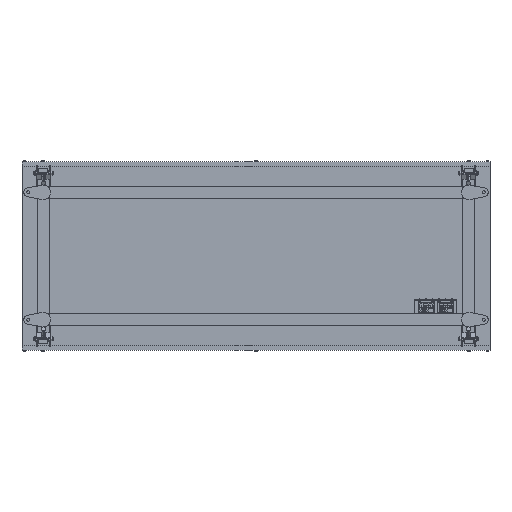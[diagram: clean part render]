
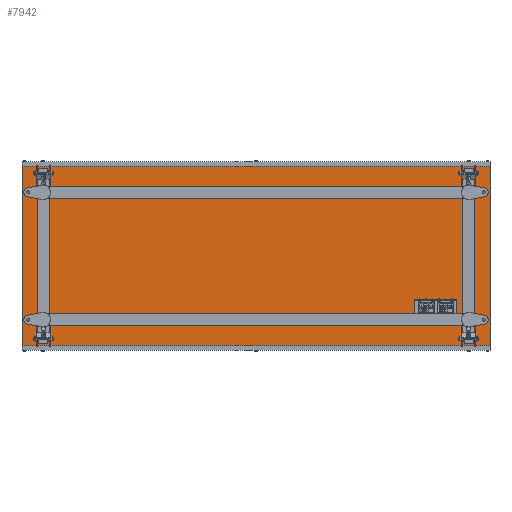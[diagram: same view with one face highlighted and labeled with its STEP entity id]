
A CAD part, front view. The second image highlights one B-rep face of the part: STEP entity #7942.
In plain terms, the highlighted planar face has unit normal (0, -1, 0).
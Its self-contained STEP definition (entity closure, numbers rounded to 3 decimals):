
#7942=ADVANCED_FACE('',(#47307,#47308,#47309,#47310,#47311),#47306,.F.);
#47306=PLANE('',#70549);
#47307=FACE_OUTER_BOUND('',#70550,.T.);
#47308=FACE_BOUND('',#70551,.T.);
#47309=FACE_BOUND('',#70552,.T.);
#47310=FACE_BOUND('',#70553,.T.);
#47311=FACE_BOUND('',#70554,.T.);
#70546=CARTESIAN_POINT('',(-10.,-180.,-390.));
#70547=DIRECTION('',(0.,1.,0.));
#70548=DIRECTION('',(0.,0.,1.));
#70549=AXIS2_PLACEMENT_3D('',#70546,#70547,#70548);
#70550=EDGE_LOOP('',(#90668,#90669,#90670,#90671));
#70551=EDGE_LOOP('',(#90672,#90673,#90674,#90675));
#70552=EDGE_LOOP('',(#90676,#90677,#90678,#90679));
#70553=EDGE_LOOP('',(#90680,#90681,#90682,#90683));
#70554=EDGE_LOOP('',(#90684,#90685,#90686,#90687));
#90668=ORIENTED_EDGE('',*,*,#101261,.T.);
#90669=ORIENTED_EDGE('',*,*,#101359,.F.);
#90670=ORIENTED_EDGE('',*,*,#101245,.F.);
#90671=ORIENTED_EDGE('',*,*,#101360,.T.);
#90672=ORIENTED_EDGE('',*,*,#101238,.F.);
#90673=ORIENTED_EDGE('',*,*,#101229,.F.);
#90674=ORIENTED_EDGE('',*,*,#101232,.F.);
#90675=ORIENTED_EDGE('',*,*,#101235,.F.);
#90676=ORIENTED_EDGE('',*,*,#100648,.T.);
#90677=ORIENTED_EDGE('',*,*,#100649,.T.);
#90678=ORIENTED_EDGE('',*,*,#100640,.T.);
#90679=ORIENTED_EDGE('',*,*,#100644,.T.);
#90680=ORIENTED_EDGE('',*,*,#101040,.T.);
#90681=ORIENTED_EDGE('',*,*,#101041,.T.);
#90682=ORIENTED_EDGE('',*,*,#101032,.T.);
#90683=ORIENTED_EDGE('',*,*,#101036,.T.);
#90684=ORIENTED_EDGE('',*,*,#100846,.F.);
#90685=ORIENTED_EDGE('',*,*,#100837,.F.);
#90686=ORIENTED_EDGE('',*,*,#100840,.F.);
#90687=ORIENTED_EDGE('',*,*,#100843,.F.);
#100640=EDGE_CURVE('',#161592,#161593,#161594,.T.);
#100644=EDGE_CURVE('',#161593,#161612,#161619,.T.);
#100648=EDGE_CURVE('',#161612,#161639,#161646,.T.);
#100649=EDGE_CURVE('',#161639,#161592,#161652,.T.);
#100837=EDGE_CURVE('',#162923,#162909,#162930,.T.);
#100840=EDGE_CURVE('',#162942,#162923,#162949,.T.);
#100843=EDGE_CURVE('',#162969,#162942,#162970,.T.);
#100846=EDGE_CURVE('',#162909,#162969,#162988,.T.);
#101032=EDGE_CURVE('',#164250,#164251,#164252,.T.);
#101036=EDGE_CURVE('',#164251,#164270,#164277,.T.);
#101040=EDGE_CURVE('',#164270,#164297,#164304,.T.);
#101041=EDGE_CURVE('',#164297,#164250,#164310,.T.);
#101229=EDGE_CURVE('',#165581,#165567,#165588,.T.);
#101232=EDGE_CURVE('',#165600,#165581,#165607,.T.);
#101235=EDGE_CURVE('',#165627,#165600,#165628,.T.);
#101238=EDGE_CURVE('',#165567,#165627,#165646,.T.);
#101245=EDGE_CURVE('',#165688,#165695,#165696,.T.);
#101261=EDGE_CURVE('',#165803,#165796,#165804,.T.);
#101359=EDGE_CURVE('',#165695,#165796,#166400,.T.);
#101360=EDGE_CURVE('',#165688,#165803,#166406,.T.);
#161592=VERTEX_POINT('',#202780);
#161593=VERTEX_POINT('',#202781);
#161594=LINE('',#202782,#202783);
#161612=VERTEX_POINT('',#202791);
#161619=LINE('',#202795,#202796);
#161639=VERTEX_POINT('',#202808);
#161646=LINE('',#202812,#202813);
#161652=LINE('',#202815,#202816);
#162909=VERTEX_POINT('',#203559);
#162923=VERTEX_POINT('',#203567);
#162930=LINE('',#203571,#203572);
#162942=VERTEX_POINT('',#203577);
#162949=LINE('',#203581,#203582);
#162969=VERTEX_POINT('',#203594);
#162970=LINE('',#203595,#203596);
#162988=LINE('',#203604,#203605);
#164250=VERTEX_POINT('',#204352);
#164251=VERTEX_POINT('',#204353);
#164252=LINE('',#204354,#204355);
#164270=VERTEX_POINT('',#204363);
#164277=LINE('',#204367,#204368);
#164297=VERTEX_POINT('',#204380);
#164304=LINE('',#204384,#204385);
#164310=LINE('',#204387,#204388);
#165567=VERTEX_POINT('',#205131);
#165581=VERTEX_POINT('',#205139);
#165588=LINE('',#205143,#205144);
#165600=VERTEX_POINT('',#205149);
#165607=LINE('',#205153,#205154);
#165627=VERTEX_POINT('',#205166);
#165628=LINE('',#205167,#205168);
#165646=LINE('',#205176,#205177);
#165688=VERTEX_POINT('',#205202);
#165695=VERTEX_POINT('',#205206);
#165696=LINE('',#205207,#205208);
#165796=VERTEX_POINT('',#205262);
#165803=VERTEX_POINT('',#205266);
#165804=LINE('',#205267,#205268);
#166400=LINE('',#205649,#205650);
#166406=LINE('',#205652,#205653);
#202780=CARTESIAN_POINT('',(70.,-180.,372.));
#202781=CARTESIAN_POINT('',(110.,-180.,372.));
#202782=CARTESIAN_POINT('',(70.,-180.,372.));
#202783=VECTOR('',#202784,40.);
#202784=DIRECTION('',(1.,0.,0.));
#202791=CARTESIAN_POINT('',(110.,-180.,332.));
#202795=CARTESIAN_POINT('',(110.,-180.,372.));
#202796=VECTOR('',#202797,40.);
#202797=DIRECTION('',(0.,0.,-1.));
#202808=CARTESIAN_POINT('',(70.,-180.,332.));
#202812=CARTESIAN_POINT('',(110.,-180.,332.));
#202813=VECTOR('',#202814,40.);
#202814=DIRECTION('',(-1.,0.,0.));
#202815=CARTESIAN_POINT('',(70.,-180.,332.));
#202816=VECTOR('',#202817,40.);
#202817=DIRECTION('',(0.,0.,1.));
#203559=CARTESIAN_POINT('',(1915.,-180.,332.));
#203567=CARTESIAN_POINT('',(1875.,-180.,332.));
#203571=CARTESIAN_POINT('',(1875.,-180.,332.));
#203572=VECTOR('',#203573,40.);
#203573=DIRECTION('',(1.,0.,0.));
#203577=CARTESIAN_POINT('',(1875.,-180.,372.));
#203581=CARTESIAN_POINT('',(1875.,-180.,372.));
#203582=VECTOR('',#203583,40.);
#203583=DIRECTION('',(0.,0.,-1.));
#203594=CARTESIAN_POINT('',(1915.,-180.,372.));
#203595=CARTESIAN_POINT('',(1915.,-180.,372.));
#203596=VECTOR('',#203597,40.);
#203597=DIRECTION('',(-1.,0.,0.));
#203604=CARTESIAN_POINT('',(1915.,-180.,332.));
#203605=VECTOR('',#203606,40.);
#203606=DIRECTION('',(0.,0.,1.));
#204352=CARTESIAN_POINT('',(1915.,-180.,-372.));
#204353=CARTESIAN_POINT('',(1875.,-180.,-372.));
#204354=CARTESIAN_POINT('',(1915.,-180.,-372.));
#204355=VECTOR('',#204356,40.);
#204356=DIRECTION('',(-1.,0.,0.));
#204363=CARTESIAN_POINT('',(1875.,-180.,-332.));
#204367=CARTESIAN_POINT('',(1875.,-180.,-372.));
#204368=VECTOR('',#204369,40.);
#204369=DIRECTION('',(0.,0.,1.));
#204380=CARTESIAN_POINT('',(1915.,-180.,-332.));
#204384=CARTESIAN_POINT('',(1875.,-180.,-332.));
#204385=VECTOR('',#204386,40.);
#204386=DIRECTION('',(1.,0.,0.));
#204387=CARTESIAN_POINT('',(1915.,-180.,-332.));
#204388=VECTOR('',#204389,40.);
#204389=DIRECTION('',(0.,0.,-1.));
#205131=CARTESIAN_POINT('',(70.,-180.,-332.));
#205139=CARTESIAN_POINT('',(110.,-180.,-332.));
#205143=CARTESIAN_POINT('',(110.,-180.,-332.));
#205144=VECTOR('',#205145,40.);
#205145=DIRECTION('',(-1.,0.,0.));
#205149=CARTESIAN_POINT('',(110.,-180.,-372.));
#205153=CARTESIAN_POINT('',(110.,-180.,-372.));
#205154=VECTOR('',#205155,40.);
#205155=DIRECTION('',(0.,0.,1.));
#205166=CARTESIAN_POINT('',(70.,-180.,-372.));
#205167=CARTESIAN_POINT('',(70.,-180.,-372.));
#205168=VECTOR('',#205169,40.);
#205169=DIRECTION('',(1.,0.,0.));
#205176=CARTESIAN_POINT('',(70.,-180.,-332.));
#205177=VECTOR('',#205178,40.);
#205178=DIRECTION('',(0.,0.,-1.));
#205202=CARTESIAN_POINT('',(1985.,-180.,380.));
#205206=CARTESIAN_POINT('',(1985.,-180.,-380.));
#205207=CARTESIAN_POINT('',(1985.,-180.,380.));
#205208=VECTOR('',#205209,760.);
#205209=DIRECTION('',(0.,0.,-1.));
#205262=CARTESIAN_POINT('',(0.,-180.,-380.));
#205266=CARTESIAN_POINT('',(0.,-180.,380.));
#205267=CARTESIAN_POINT('',(0.,-180.,380.));
#205268=VECTOR('',#205269,760.);
#205269=DIRECTION('',(0.,0.,-1.));
#205649=CARTESIAN_POINT('',(1985.,-180.,-380.));
#205650=VECTOR('',#205651,1985.);
#205651=DIRECTION('',(-1.,0.,0.));
#205652=CARTESIAN_POINT('',(1985.,-180.,380.));
#205653=VECTOR('',#205654,1985.);
#205654=DIRECTION('',(-1.,0.,0.));
